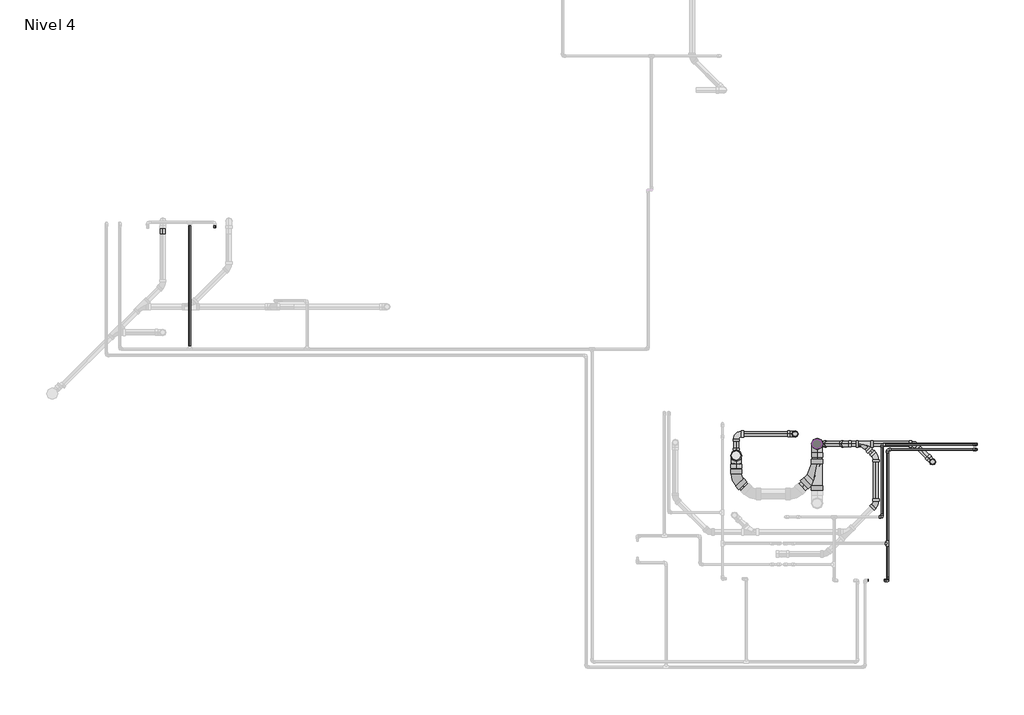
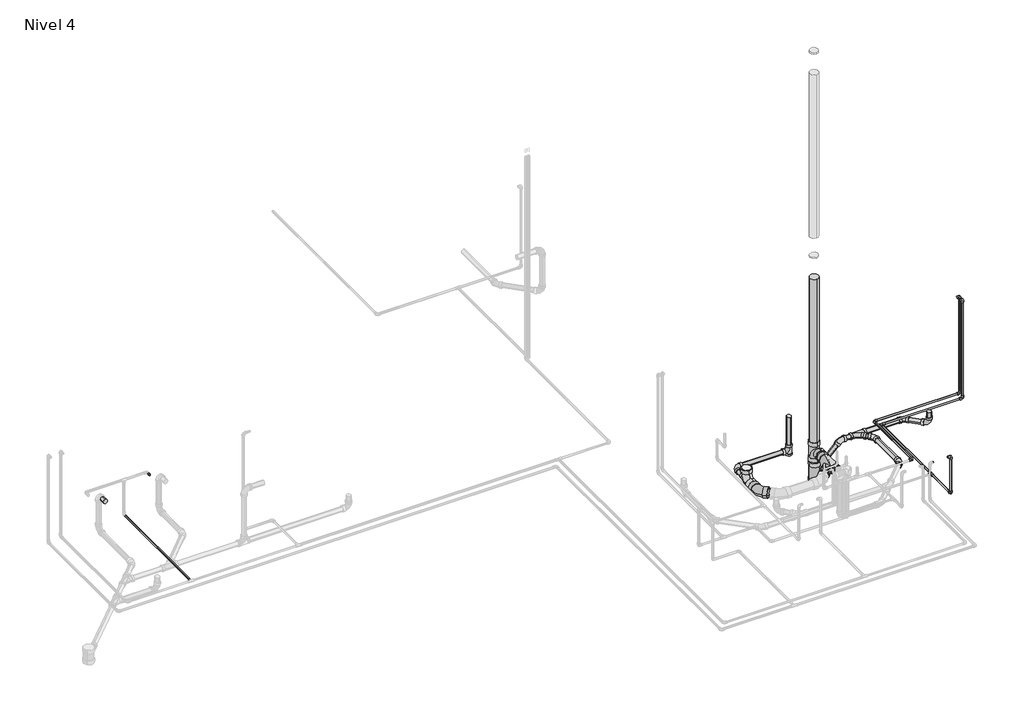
# One storey, part 4 of 9: 32 pipe segments, 23 pipe fittings.
"""IFC4 building model written with IfcOpenShell, lengths in millimetres."""

from ifc_helpers import new_model, si_unit, point, frame, frame_2d, origin, place, context, project, spatial, circle_curve, trimmed, segment, composite_curve, outline, extrude, transform, mapped, element, save
from components import pipe_fitting_ab418b84, pipe_fitting_0163322b, pipe_fitting_2a8dfbef, pipe_fitting_44a425ca, pipe_fitting_6ef1482d, pipe_fitting_ef5974f2, pipe_fitting_528008cb, m_codo_pvc_serie_40_9ad74631, m_codo_pvc_serie_40_dwv1_5c0ec739, m_codo_pvc_serie_40_dwv1_9a7ca077, m_codo_pvc_serie_40_dwv1_6f1a2495

model = new_model("IFC4")

# Units and contexts
model_context = context("Model", 3, world=origin())
ifc_project = project(units=[si_unit("LENGTHUNIT", "METRE", prefix="MILLI")], contexts=[model_context])

# Site, building, storey
site = spatial("IfcSite", under=ifc_project)
building = spatial("IfcBuilding", under=site)
storey = spatial("IfcBuildingStorey", under=building, Name="Nivel 4", Elevation=8100.0)

# Pipe fittings
placement = place(None, origin())
pipe_fitting_shape = pipe_fitting_ab418b84(model_context)
element("IfcPipeFitting", 1, ObjectType="M_Te - PVC - Serie 40 : Estándar", at=placement, inside=storey, context=model_context, shape_type="MappedRepresentation", body=[
    mapped(pipe_fitting_shape, transform((8223.2736664, 5443.3784167, 8020.0), x_axis=(0.0, -1.0, 0.0), y_axis=(1.0, 0.0, 0.0), z_axis=(0.0, 0.0, 1.0))),
])
pipe_fitting_2_shape = pipe_fitting_0163322b(model_context)
element("IfcPipeFitting", 2, ObjectType="M_Sanitario con te de reducción - PVC - Serie 40 - DWV : Estándar", at=placement, inside=storey, context=model_context, shape_type="MappedRepresentation", body=[
    mapped(pipe_fitting_2_shape, transform((7950.1491284, 6556.6039726, 7950.0), x_axis=(1.0, 0.0, 0.0), y_axis=(0.0, 1.0, 0.0), z_axis=(0.0, 0.0, 1.0))),
])
pipe_fitting_3_shape = pipe_fitting_2a8dfbef(model_context)
element("IfcPipeFitting", 3, ObjectType="M_Sanitario con te de reducción - PVC - Serie 40 - DWV : Estándar", at=placement, inside=storey, context=model_context, shape_type="MappedRepresentation", body=[
    mapped(pipe_fitting_3_shape, transform((7432.3114332, 6556.6039726, 7950.0), x_axis=(0.0, 0.0, 1.0), y_axis=(0.0, 1.0, 0.0), z_axis=(-1.0, 0.0, 0.0))),
])
pipe_fitting_4_shape = pipe_fitting_44a425ca(model_context)
element("IfcPipeFitting", 4, ObjectType="M_Sanitario con te de reducción - PVC - Serie 40 - DWV : Estándar", at=placement, inside=storey, context=model_context, shape_type="MappedRepresentation", body=[
    mapped(pipe_fitting_4_shape, transform((6526.9673956, 6425.7039726, 7950.0), x_axis=(0.0, 1.0, 0.0), y_axis=(0.0, 0.0, -1.0), z_axis=(-1.0, 0.0, 0.0))),
])
pipe_fitting_5_shape = pipe_fitting_6ef1482d(model_context)
element("IfcPipeFitting", 5, ObjectType="M_Sanitario con te de reducción - PVC - Serie 40 - DWV : Estándar", at=placement, inside=storey, context=model_context, shape_type="MappedRepresentation", body=[
    mapped(pipe_fitting_5_shape, transform((7186.9673956, 6667.6335141, 7950.0), x_axis=(0.0, 0.0, -1.0), y_axis=(1.0, 0.0, 0.0), z_axis=(0.0, -1.0, 0.0))),
])
pipe_fitting_6_shape = pipe_fitting_ef5974f2(model_context)
element("IfcPipeFitting", 6, ObjectType="M_Sanitario con te de reducción - PVC - Serie 40 - DWV : Estándar", at=placement, inside=storey, context=model_context, shape_type="MappedRepresentation", body=[
    mapped(pipe_fitting_6_shape, transform((7432.3114332, 6556.6039726, 7630.373341), x_axis=(0.0, 0.0, 1.0), y_axis=(-1.0, 0.0, 0.0), z_axis=(0.0, -1.0, 0.0))),
])
pipe_fitting_7_shape = pipe_fitting_528008cb(model_context)
element("IfcPipeFitting", 7, ObjectType="M_Sanitario con te de reducción - PVC - Serie 40 - DWV : Estándar", at=placement, inside=storey, context=model_context, shape_type="MappedRepresentation", body=[
    mapped(pipe_fitting_7_shape, transform((7432.3176766, 6240.3688287, 7950.0), x_axis=(0.0, -1.0, 0.0), y_axis=(1.0, 0.0, 0.0), z_axis=(0.0, 0.0, 1.0))),
])
m_codo_pvc_serie_40_shape = m_codo_pvc_serie_40_9ad74631(model_context)
element("IfcPipeFitting", 8, ObjectType="M_Codo - PVC - Serie 40 : Estándar", at=placement, inside=storey, context=model_context, shape_type="MappedRepresentation", body=[
    mapped(m_codo_pvc_serie_40_shape, transform((8160.7224481, 6550.9011374, 8050.0), x_axis=(-1.0, 0.0, 0.0), y_axis=(0.0, -1.0, 0.0), z_axis=(0.0, 0.0, 1.0))),
])
element("IfcPipeFitting", 9, ObjectType="M_Codo - PVC - Serie 40 : Estándar", at=placement, inside=storey, context=model_context, shape_type="MappedRepresentation", body=[
    mapped(m_codo_pvc_serie_40_shape, transform((9213.5474126, 6550.9011374, 8050.0), x_axis=(1.0, 0.0, 0.0), y_axis=(0.0, 0.0, 1.0), z_axis=(0.0, -1.0, 0.0))),
])
element("IfcPipeFitting", 10, ObjectType="M_Codo - PVC - Serie 40 : Estándar", at=placement, inside=storey, context=model_context, shape_type="MappedRepresentation", body=[
    mapped(m_codo_pvc_serie_40_shape, transform((9213.5474126, 6550.9011374, 9300.0), x_axis=(0.0, 0.0, 1.0), y_axis=(-1.0, 0.0, 0.0), z_axis=(0.0, -1.0, 0.0))),
])
element("IfcPipeFitting", 11, ObjectType="M_Codo - PVC - Serie 40 : Estándar", at=placement, inside=storey, context=model_context, shape_type="MappedRepresentation", body=[
    mapped(m_codo_pvc_serie_40_shape, transform((8223.2736664, 5028.5261191, 8500.0), x_axis=(1.0, 0.0, 0.0), y_axis=(0.0, 0.0, -1.0), z_axis=(0.0, 1.0, 0.0))),
])
element("IfcPipeFitting", 12, ObjectType="M_Codo - PVC - Serie 40 : Estándar", at=placement, inside=storey, context=model_context, shape_type="MappedRepresentation", body=[
    mapped(m_codo_pvc_serie_40_shape, transform((8223.2736664, 5028.5261191, 8020.0), x_axis=(0.0, 0.0, -1.0), y_axis=(0.0, 1.0, 0.0), z_axis=(1.0, 0.0, 0.0))),
])
element("IfcPipeFitting", 13, ObjectType="M_Codo - PVC - Serie 40 : Estándar", at=placement, inside=storey, context=model_context, shape_type="MappedRepresentation", body=[
    mapped(m_codo_pvc_serie_40_shape, transform((8160.7224481, 5738.1215351, 8050.0), x_axis=(1.0, 0.0, 0.0), y_axis=(0.0, 1.0, 0.0), z_axis=(0.0, 0.0, 1.0))),
])
element("IfcPipeFitting", 14, ObjectType="M_Codo - PVC - Serie 40 : Estándar", at=placement, inside=storey, context=model_context, shape_type="MappedRepresentation", body=[
    mapped(m_codo_pvc_serie_40_shape, transform((8223.2736664, 6493.5261191, 8020.0), x_axis=(-1.0, 0.0, 0.0), y_axis=(0.0, -1.0, 0.0), z_axis=(0.0, 0.0, 1.0))),
])
element("IfcPipeFitting", 15, ObjectType="M_Codo - PVC - Serie 40 : Estándar", at=placement, inside=storey, context=model_context, shape_type="MappedRepresentation", body=[
    mapped(m_codo_pvc_serie_40_shape, transform((9213.2736664, 6493.5261191, 8020.0), x_axis=(1.0, 0.0, 0.0), y_axis=(0.0, 0.0, 1.0), z_axis=(0.0, -1.0, 0.0))),
])
element("IfcPipeFitting", 16, ObjectType="M_Codo - PVC - Serie 40 : Estándar", at=placement, inside=storey, context=model_context, shape_type="MappedRepresentation", body=[
    mapped(m_codo_pvc_serie_40_shape, transform((9213.2736664, 6493.5261191, 9300.0), x_axis=(0.0, 0.0, 1.0), y_axis=(-1.0, 0.0, 0.0), z_axis=(0.0, -1.0, 0.0))),
])
m_codo_pvc_serie_40_dwv1_shape = m_codo_pvc_serie_40_dwv1_5c0ec739(model_context)
element("IfcPipeFitting", 17, ObjectType="M_Codo - PVC - Serie 40 - DWV1 : Estándar 2", at=placement, inside=storey, context=model_context, shape_type="MappedRepresentation", body=[
    mapped(m_codo_pvc_serie_40_dwv1_shape, transform((8726.4610283, 6356.2295424, 7950.0041623), x_axis=(0.0, 0.0, -1.0), y_axis=(-0.7071067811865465, 0.7071067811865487, 0.0), z_axis=(0.7071067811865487, 0.7071067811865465, 0.0))),
])
element("IfcPipeFitting", 18, ObjectType="M_Codo - PVC - Serie 40 - DWV1 : Estándar 2", at=placement, inside=storey, context=model_context, shape_type="MappedRepresentation", body=[
    mapped(m_codo_pvc_serie_40_dwv1_shape, transform((6526.9673956, 6667.6335141, 7950.0), x_axis=(-1.0, 0.0, 0.0), y_axis=(0.0, -1.0, 0.0), z_axis=(0.0, 0.0, 1.0))),
])
m_codo_pvc_serie_40_dwv1_2_shape = m_codo_pvc_serie_40_dwv1_9a7ca077(model_context)
element("IfcPipeFitting", 19, ObjectType="M_Codo - PVC - Serie 40 - DWV1 : Estándar 2", at=placement, inside=storey, context=model_context, shape_type="MappedRepresentation", body=[
    mapped(m_codo_pvc_serie_40_dwv1_2_shape, transform((6526.9673956, 6165.7039726, 7950.0), x_axis=(0.0, -1.0, 0.0), y_axis=(1.0, 0.0, 0.0), z_axis=(0.0, 0.0, 1.0))),
])
m_codo_pvc_serie_40_dwv1_3_shape = m_codo_pvc_serie_40_dwv1_6f1a2495(model_context)
element("IfcPipeFitting", 20, ObjectType="M_Codo - PVC - Serie 40 - DWV1 : Estándar 2", at=placement, inside=storey, context=model_context, shape_type="MappedRepresentation", body=[
    mapped(m_codo_pvc_serie_40_dwv1_3_shape, transform((8090.9591157, 5880.4374664, 7950.0), x_axis=(0.7071067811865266, 0.7071067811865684, 0.0), y_axis=(-0.7071067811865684, 0.7071067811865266, 0.0), z_axis=(0.0, 0.0, 1.0))),
])
element("IfcPipeFitting", 21, ObjectType="M_Codo - PVC - Serie 40 - DWV1 : Estándar 2", at=placement, inside=storey, context=model_context, shape_type="MappedRepresentation", body=[
    mapped(m_codo_pvc_serie_40_dwv1_3_shape, transform((8526.0865981, 6556.6039726, 7950.0), x_axis=(-0.7071067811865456, 0.7071067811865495, 0.0), y_axis=(-0.7071067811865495, -0.7071067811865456, 0.0), z_axis=(0.0, 0.0, 1.0))),
])
element("IfcPipeFitting", 22, ObjectType="M_Codo - PVC - Serie 40 - DWV1 : Estándar 2", at=placement, inside=storey, context=model_context, shape_type="MappedRepresentation", body=[
    mapped(m_codo_pvc_serie_40_dwv1_3_shape, transform((8090.9591157, 6415.7939854, 7950.0), x_axis=(0.0, 1.0, 0.0), y_axis=(-1.0, 0.0, 0.0), z_axis=(0.0, 0.0, 1.0))),
])
element("IfcPipeFitting", 23, ObjectType="M_Codo - PVC - Serie 40 - DWV1 : Estándar 2", at=placement, inside=storey, context=model_context, shape_type="MappedRepresentation", body=[
    mapped(m_codo_pvc_serie_40_dwv1_3_shape, transform((7751.9380923, 6556.6039726, 7950.0), x_axis=(-1.0, 0.0, 0.0), y_axis=(0.0, 0.0, -1.0), z_axis=(0.0, -1.0, 0.0))),
])

# Pipe segments
element("IfcPipeSegment", 24, ObjectType="Tuberia PVC Agua Fria", at=placement, inside=storey, context=model_context, shape_type="SweptSolid", body=[
    extrude(outline(composite_curve([segment(trimmed(circle_curve(frame_2d((8050.0, 411.6630441)), 10.31875), [point((8050.0, 421.9817941))], [point((8060.31875, 411.6630441))], False, "CARTESIAN"), True, "CONTINUOUS"), segment(trimmed(circle_curve(frame_2d((8050.0, 411.6630441)), 10.31875), [point((8060.31875, 411.6630441))], [point((8050.0, 401.3442941))], False, "CARTESIAN"), True, "CONTINUOUS"), segment(trimmed(circle_curve(frame_2d((8050.0, 411.6630441)), 10.31875), [point((8050.0, 401.3442941))], [point((8039.68125, 411.6630441))], False, "CARTESIAN"), True, "CONTINUOUS"), segment(trimmed(circle_curve(frame_2d((8050.0, 411.6630441)), 10.31875), [point((8039.68125, 411.6630441))], [point((8050.0, 421.9817941))], False, "CARTESIAN"), True, "CONTINUOUS")], self_intersect=False)), frame((0.0, 7647.4782956, 0.0), z_axis=(0.0, 1.0, 0.0), x_axis=(0.0, 0.0, 1.0)), (0.0, 0.0, 1.0), 1356.1388437),
])
element("IfcPipeSegment", 25, ObjectType="Tuberia PVC Agua Fria", at=placement, inside=storey, context=model_context, shape_type="SweptSolid", body=[
    extrude(outline(composite_curve([segment(trimmed(circle_curve(frame_2d((8500.0, 691.6630441)), 10.31875), [point((8500.0, 681.3442941))], [point((8489.68125, 691.6630441))], False, "CARTESIAN"), True, "CONTINUOUS"), segment(trimmed(circle_curve(frame_2d((8500.0, 691.6630441)), 10.31875), [point((8489.68125, 691.6630441))], [point((8500.0, 701.9817941))], False, "CARTESIAN"), True, "CONTINUOUS"), segment(trimmed(circle_curve(frame_2d((8500.0, 691.6630441)), 10.31875), [point((8500.0, 701.9817941))], [point((8510.31875, 691.6630441))], False, "CARTESIAN"), True, "CONTINUOUS"), segment(trimmed(circle_curve(frame_2d((8500.0, 691.6630441)), 10.31875), [point((8510.31875, 691.6630441))], [point((8500.0, 681.3442941))], False, "CARTESIAN"), True, "CONTINUOUS")], self_intersect=False)), frame((0.0, 8977.0181394, 0.0), z_axis=(0.0, 1.0, 0.0), x_axis=(0.0, 0.0, 1.0)), (0.0, 0.0, 1.0), 26.599),
])
element("IfcPipeSegment", 26, ObjectType="Tuberia PVC Agua Fria", at=placement, inside=storey, context=model_context, shape_type="SweptSolid", body=[
    extrude(outline(composite_curve([segment(trimmed(circle_curve(frame_2d((8050.0, 8160.7224481)), 10.31875), [point((8050.0, 8171.0411981))], [point((8060.31875, 8160.7224481))], False, "CARTESIAN"), True, "CONTINUOUS"), segment(trimmed(circle_curve(frame_2d((8050.0, 8160.7224481)), 10.31875), [point((8060.31875, 8160.7224481))], [point((8050.0, 8150.4036981))], False, "CARTESIAN"), True, "CONTINUOUS"), segment(trimmed(circle_curve(frame_2d((8050.0, 8160.7224481)), 10.31875), [point((8050.0, 8150.4036981))], [point((8039.68125, 8160.7224481))], False, "CARTESIAN"), True, "CONTINUOUS"), segment(trimmed(circle_curve(frame_2d((8050.0, 8160.7224481)), 10.31875), [point((8039.68125, 8160.7224481))], [point((8050.0, 8171.0411981))], False, "CARTESIAN"), True, "CONTINUOUS")], self_intersect=False)), frame((0.0, 5771.5225351, 0.0), z_axis=(0.0, 1.0, 0.0), x_axis=(0.0, 0.0, 1.0)), (0.0, 0.0, 1.0), 745.9776022),
])
element("IfcPipeSegment", 27, ObjectType="Tuberia PVC Agua Fria", at=placement, inside=storey, context=model_context, shape_type="SweptSolid", body=[
    extrude(outline(composite_curve([segment(trimmed(circle_curve(frame_2d((6550.9011374, 8050.0)), 10.31875), [point((6540.5823874, 8050.0))], [point((6550.9011374, 8060.31875))], False, "CARTESIAN"), True, "CONTINUOUS"), segment(trimmed(circle_curve(frame_2d((6550.9011374, 8050.0)), 10.31875), [point((6550.9011374, 8060.31875))], [point((6561.2198874, 8050.0))], False, "CARTESIAN"), True, "CONTINUOUS"), segment(trimmed(circle_curve(frame_2d((6550.9011374, 8050.0)), 10.31875), [point((6561.2198874, 8050.0))], [point((6550.9011374, 8039.68125))], False, "CARTESIAN"), True, "CONTINUOUS"), segment(trimmed(circle_curve(frame_2d((6550.9011374, 8050.0)), 10.31875), [point((6550.9011374, 8039.68125))], [point((6540.5823874, 8050.0))], False, "CARTESIAN"), True, "CONTINUOUS")], self_intersect=False)), frame((8194.1234481, 0.0, 0.0), z_axis=(1.0, 0.0, 0.0), x_axis=(0.0, 1.0, 0.0)), (0.0, 0.0, 1.0), 986.0229645),
])
element("IfcPipeSegment", 28, ObjectType="Tuberia PVC Agua Fria", at=placement, inside=storey, context=model_context, shape_type="SweptSolid", body=[
    extrude(outline(composite_curve([segment(trimmed(circle_curve(frame_2d((9213.5474126, 6550.9011374)), 10.31875), [point((9203.2286626, 6550.9011374))], [point((9213.5474126, 6561.2198874))], False, "CARTESIAN"), True, "CONTINUOUS"), segment(trimmed(circle_curve(frame_2d((9213.5474126, 6550.9011374)), 10.31875), [point((9213.5474126, 6561.2198874))], [point((9223.8661626, 6550.9011374))], False, "CARTESIAN"), True, "CONTINUOUS"), segment(trimmed(circle_curve(frame_2d((9213.5474126, 6550.9011374)), 10.31875), [point((9223.8661626, 6550.9011374))], [point((9213.5474126, 6540.5823874))], False, "CARTESIAN"), True, "CONTINUOUS"), segment(trimmed(circle_curve(frame_2d((9213.5474126, 6550.9011374)), 10.31875), [point((9213.5474126, 6540.5823874))], [point((9203.2286626, 6550.9011374))], False, "CARTESIAN"), True, "CONTINUOUS")], self_intersect=False)), frame((0.0, 0.0, 8083.401), z_axis=(0.0, 0.0, 1.0), x_axis=(1.0, 0.0, 0.0)), (0.0, 0.0, 1.0), 1183.198),
])
element("IfcPipeSegment", 29, ObjectType="Tuberia PVC VENTILACION", at=placement, inside=storey, context=model_context, shape_type="SweptSolid", body=[
    extrude(outline(composite_curve([segment(trimmed(circle_curve(frame_2d((7950.0, 6526.9673956)), 26.9875), [point((7950.0, 6553.9548956))], [point((7976.9875, 6526.9673956))], False, "CARTESIAN"), True, "CONTINUOUS"), segment(trimmed(circle_curve(frame_2d((7950.0, 6526.9673956)), 26.9875), [point((7976.9875, 6526.9673956))], [point((7950.0, 6499.9798956))], False, "CARTESIAN"), True, "CONTINUOUS"), segment(trimmed(circle_curve(frame_2d((7950.0, 6526.9673956)), 26.9875), [point((7950.0, 6499.9798956))], [point((7923.0125, 6526.9673956))], False, "CARTESIAN"), True, "CONTINUOUS"), segment(trimmed(circle_curve(frame_2d((7950.0, 6526.9673956)), 26.9875), [point((7923.0125, 6526.9673956))], [point((7950.0, 6553.9548956))], False, "CARTESIAN"), True, "CONTINUOUS")], self_intersect=False)), frame((0.0, 6507.6335141, 0.0), z_axis=(0.0, 1.0, 0.0), x_axis=(0.0, 0.0, 1.0)), (0.0, 0.0, 1.0), 77.4579375),
])
element("IfcPipeSegment", 30, ObjectType="Tuberia PVC VENTILACION", at=placement, inside=storey, context=model_context, shape_type="SweptSolid", body=[
    extrude(outline(composite_curve([segment(trimmed(circle_curve(frame_2d((6667.6335141, 7950.0)), 26.9875), [point((6640.6460141, 7950.0))], [point((6667.6335141, 7976.9875))], False, "CARTESIAN"), True, "CONTINUOUS"), segment(trimmed(circle_curve(frame_2d((6667.6335141, 7950.0)), 26.9875), [point((6667.6335141, 7976.9875))], [point((6694.6210141, 7950.0))], False, "CARTESIAN"), True, "CONTINUOUS"), segment(trimmed(circle_curve(frame_2d((6667.6335141, 7950.0)), 26.9875), [point((6694.6210141, 7950.0))], [point((6667.6335141, 7923.0125))], False, "CARTESIAN"), True, "CONTINUOUS"), segment(trimmed(circle_curve(frame_2d((6667.6335141, 7950.0)), 26.9875), [point((6667.6335141, 7923.0125))], [point((6640.6460141, 7950.0))], False, "CARTESIAN"), True, "CONTINUOUS")], self_intersect=False)), frame((6609.5094581, 0.0, 0.0), z_axis=(1.0, 0.0, 0.0), x_axis=(0.0, 1.0, 0.0)), (0.0, 0.0, 1.0), 495.6659688),
])
element("IfcPipeSegment", 31, ObjectType="Tuberia PVC VENTILACION", at=placement, inside=storey, context=model_context, shape_type="SweptSolid", body=[
    extrude(outline(composite_curve([segment(trimmed(circle_curve(frame_2d((7186.9673956, 6667.6335141)), 26.9875), [point((7159.9798956, 6667.6335141))], [point((7186.9673956, 6694.6210141))], False, "CARTESIAN"), True, "CONTINUOUS"), segment(trimmed(circle_curve(frame_2d((7186.9673956, 6667.6335141)), 26.9875), [point((7186.9673956, 6694.6210141))], [point((7213.9548956, 6667.6335141))], False, "CARTESIAN"), True, "CONTINUOUS"), segment(trimmed(circle_curve(frame_2d((7186.9673956, 6667.6335141)), 26.9875), [point((7213.9548956, 6667.6335141))], [point((7186.9673956, 6640.6460141))], False, "CARTESIAN"), True, "CONTINUOUS"), segment(trimmed(circle_curve(frame_2d((7186.9673956, 6667.6335141)), 26.9875), [point((7186.9673956, 6640.6460141))], [point((7159.9798956, 6667.6335141))], False, "CARTESIAN"), True, "CONTINUOUS")], self_intersect=False)), frame((0.0, 0.0, 8029.9344667), z_axis=(0.0, 0.0, 1.0), x_axis=(1.0, 0.0, 0.0)), (0.0, 0.0, 1.0), 360.0655333),
])
element("IfcPipeSegment", 32, ObjectType="Tuberia PVC Agua Caliente", at=placement, inside=storey, context=model_context, shape_type="SweptSolid", body=[
    extrude(outline(composite_curve([segment(trimmed(circle_curve(frame_2d((5028.5261191, 8500.0)), 10.31875), [point((5018.2073691, 8500.0))], [point((5028.5261191, 8510.31875))], False, "CARTESIAN"), True, "CONTINUOUS"), segment(trimmed(circle_curve(frame_2d((5028.5261191, 8500.0)), 10.31875), [point((5028.5261191, 8510.31875))], [point((5038.8448691, 8500.0))], False, "CARTESIAN"), True, "CONTINUOUS"), segment(trimmed(circle_curve(frame_2d((5028.5261191, 8500.0)), 10.31875), [point((5038.8448691, 8500.0))], [point((5028.5261191, 8489.68125))], False, "CARTESIAN"), True, "CONTINUOUS"), segment(trimmed(circle_curve(frame_2d((5028.5261191, 8500.0)), 10.31875), [point((5028.5261191, 8489.68125))], [point((5018.2073691, 8500.0))], False, "CARTESIAN"), True, "CONTINUOUS")], self_intersect=False)), frame((8184.7736664, 0.0, 0.0), z_axis=(1.0, 0.0, 0.0), x_axis=(0.0, 1.0, 0.0)), (0.0, 0.0, 1.0), 5.099),
])
element("IfcPipeSegment", 33, ObjectType="Tuberia PVC Agua Caliente", at=placement, inside=storey, context=model_context, shape_type="SweptSolid", body=[
    extrude(outline(composite_curve([segment(trimmed(circle_curve(frame_2d((8223.2736664, 5028.5261191)), 10.31875), [point((8233.5924164, 5028.5261191))], [point((8223.2736664, 5018.2073691))], False, "CARTESIAN"), True, "CONTINUOUS"), segment(trimmed(circle_curve(frame_2d((8223.2736664, 5028.5261191)), 10.31875), [point((8223.2736664, 5018.2073691))], [point((8212.9549164, 5028.5261191))], False, "CARTESIAN"), True, "CONTINUOUS"), segment(trimmed(circle_curve(frame_2d((8223.2736664, 5028.5261191)), 10.31875), [point((8212.9549164, 5028.5261191))], [point((8223.2736664, 5038.8448691))], False, "CARTESIAN"), True, "CONTINUOUS"), segment(trimmed(circle_curve(frame_2d((8223.2736664, 5028.5261191)), 10.31875), [point((8223.2736664, 5038.8448691))], [point((8233.5924164, 5028.5261191))], False, "CARTESIAN"), True, "CONTINUOUS")], self_intersect=False)), frame((0.0, 0.0, 8053.401), z_axis=(0.0, 0.0, 1.0), x_axis=(1.0, 0.0, 0.0)), (0.0, 0.0, 1.0), 413.198),
])
element("IfcPipeSegment", 34, ObjectType="Tuberia PVC Agua Caliente", at=placement, inside=storey, context=model_context, shape_type="SweptSolid", body=[
    extrude(outline(composite_curve([segment(trimmed(circle_curve(frame_2d((6493.5261191, 8020.0)), 10.31875), [point((6483.2073691, 8020.0))], [point((6493.5261191, 8030.31875))], False, "CARTESIAN"), True, "CONTINUOUS"), segment(trimmed(circle_curve(frame_2d((6493.5261191, 8020.0)), 10.31875), [point((6493.5261191, 8030.31875))], [point((6503.8448691, 8020.0))], False, "CARTESIAN"), True, "CONTINUOUS"), segment(trimmed(circle_curve(frame_2d((6493.5261191, 8020.0)), 10.31875), [point((6503.8448691, 8020.0))], [point((6493.5261191, 8009.68125))], False, "CARTESIAN"), True, "CONTINUOUS"), segment(trimmed(circle_curve(frame_2d((6493.5261191, 8020.0)), 10.31875), [point((6493.5261191, 8009.68125))], [point((6483.2073691, 8020.0))], False, "CARTESIAN"), True, "CONTINUOUS")], self_intersect=False)), frame((8256.6746664, 0.0, 0.0), z_axis=(1.0, 0.0, 0.0), x_axis=(0.0, 1.0, 0.0)), (0.0, 0.0, 1.0), 923.198),
])
element("IfcPipeSegment", 35, ObjectType="Tuberia PVC Agua Caliente", at=placement, inside=storey, context=model_context, shape_type="SweptSolid", body=[
    extrude(outline(composite_curve([segment(trimmed(circle_curve(frame_2d((9213.2736664, 6493.5261191)), 10.31875), [point((9202.9549164, 6493.5261191))], [point((9213.2736664, 6503.8448691))], False, "CARTESIAN"), True, "CONTINUOUS"), segment(trimmed(circle_curve(frame_2d((9213.2736664, 6493.5261191)), 10.31875), [point((9213.2736664, 6503.8448691))], [point((9223.5924164, 6493.5261191))], False, "CARTESIAN"), True, "CONTINUOUS"), segment(trimmed(circle_curve(frame_2d((9213.2736664, 6493.5261191)), 10.31875), [point((9223.5924164, 6493.5261191))], [point((9213.2736664, 6483.2073691))], False, "CARTESIAN"), True, "CONTINUOUS"), segment(trimmed(circle_curve(frame_2d((9213.2736664, 6493.5261191)), 10.31875), [point((9213.2736664, 6483.2073691))], [point((9202.9549164, 6493.5261191))], False, "CARTESIAN"), True, "CONTINUOUS")], self_intersect=False)), frame((0.0, 0.0, 8053.401), z_axis=(0.0, 0.0, 1.0), x_axis=(1.0, 0.0, 0.0)), (0.0, 0.0, 1.0), 1213.198),
])
element("IfcPipeSegment", 36, ObjectType="Tuberia PVC Agua Caliente", at=placement, inside=storey, context=model_context, shape_type="SweptSolid", body=[
    extrude(outline(composite_curve([segment(trimmed(circle_curve(frame_2d((8020.0, 8223.2736664)), 10.31875), [point((8020.0, 8233.5924164))], [point((8030.31875, 8223.2736664))], False, "CARTESIAN"), True, "CONTINUOUS"), segment(trimmed(circle_curve(frame_2d((8020.0, 8223.2736664)), 10.31875), [point((8030.31875, 8223.2736664))], [point((8020.0, 8212.9549164))], False, "CARTESIAN"), True, "CONTINUOUS"), segment(trimmed(circle_curve(frame_2d((8020.0, 8223.2736664)), 10.31875), [point((8020.0, 8212.9549164))], [point((8009.68125, 8223.2736664))], False, "CARTESIAN"), True, "CONTINUOUS"), segment(trimmed(circle_curve(frame_2d((8020.0, 8223.2736664)), 10.31875), [point((8009.68125, 8223.2736664))], [point((8020.0, 8233.5924164))], False, "CARTESIAN"), True, "CONTINUOUS")], self_intersect=False)), frame((0.0, 5473.8385729, 0.0), z_axis=(0.0, 1.0, 0.0), x_axis=(0.0, 0.0, 1.0)), (0.0, 0.0, 1.0), 986.2865461),
])
element("IfcPipeSegment", 37, ObjectType="Tuberia PVC Agua Caliente", at=placement, inside=storey, context=model_context, shape_type="SweptSolid", body=[
    extrude(outline(composite_curve([segment(trimmed(circle_curve(frame_2d((8020.0, 8223.2736664)), 10.31875), [point((8020.0, 8233.5924164))], [point((8030.31875, 8223.2736664))], False, "CARTESIAN"), True, "CONTINUOUS"), segment(trimmed(circle_curve(frame_2d((8020.0, 8223.2736664)), 10.31875), [point((8030.31875, 8223.2736664))], [point((8020.0, 8212.9549164))], False, "CARTESIAN"), True, "CONTINUOUS"), segment(trimmed(circle_curve(frame_2d((8020.0, 8223.2736664)), 10.31875), [point((8020.0, 8212.9549164))], [point((8009.68125, 8223.2736664))], False, "CARTESIAN"), True, "CONTINUOUS"), segment(trimmed(circle_curve(frame_2d((8020.0, 8223.2736664)), 10.31875), [point((8009.68125, 8223.2736664))], [point((8020.0, 8233.5924164))], False, "CARTESIAN"), True, "CONTINUOUS")], self_intersect=False)), frame((0.0, 5061.9271191, 0.0), z_axis=(0.0, 1.0, 0.0), x_axis=(0.0, 0.0, 1.0)), (0.0, 0.0, 1.0), 350.9911414),
])
element("IfcPipeSegment", 38, ObjectType="Tuberia PVC Agua Caliente", at=placement, inside=storey, context=model_context, shape_type="SweptSolid", body=[
    extrude(outline(composite_curve([segment(trimmed(circle_curve(frame_2d((5028.5261191, 8500.0)), 10.31875), [point((5018.2073691, 8500.0))], [point((5028.5261191, 8510.31875))], False, "CARTESIAN"), True, "CONTINUOUS"), segment(trimmed(circle_curve(frame_2d((5028.5261191, 8500.0)), 10.31875), [point((5028.5261191, 8510.31875))], [point((5038.8448691, 8500.0))], False, "CARTESIAN"), True, "CONTINUOUS"), segment(trimmed(circle_curve(frame_2d((5028.5261191, 8500.0)), 10.31875), [point((5038.8448691, 8500.0))], [point((5028.5261191, 8489.68125))], False, "CARTESIAN"), True, "CONTINUOUS"), segment(trimmed(circle_curve(frame_2d((5028.5261191, 8500.0)), 10.31875), [point((5028.5261191, 8489.68125))], [point((5018.2073691, 8500.0))], False, "CARTESIAN"), True, "CONTINUOUS")], self_intersect=False)), frame((8001.6746664, 0.0, 0.0), z_axis=(1.0, 0.0, 0.0), x_axis=(0.0, 1.0, 0.0)), (0.0, 0.0, 1.0), 5.099),
])
element("IfcPipeSegment", 39, ObjectType="Tuberia PVC Sanitario", at=placement, inside=storey, context=model_context, shape_type="SweptSolid", body=[
    extrude(outline(composite_curve([segment(trimmed(circle_curve(frame_2d((8400.0, 109.5958692)), 26.9875), [point((8400.0, 136.5833692))], [point((8426.9875, 109.5958692))], False, "CARTESIAN"), True, "CONTINUOUS"), segment(trimmed(circle_curve(frame_2d((8400.0, 109.5958692)), 26.9875), [point((8426.9875, 109.5958692))], [point((8400.0, 82.6083692))], False, "CARTESIAN"), True, "CONTINUOUS"), segment(trimmed(circle_curve(frame_2d((8400.0, 109.5958692)), 26.9875), [point((8400.0, 82.6083692))], [point((8373.0125, 109.5958692))], False, "CARTESIAN"), True, "CONTINUOUS"), segment(trimmed(circle_curve(frame_2d((8400.0, 109.5958692)), 26.9875), [point((8373.0125, 109.5958692))], [point((8400.0, 136.5833692))], False, "CARTESIAN"), True, "CONTINUOUS")], self_intersect=False)), frame((0.0, 8907.7311146, 0.0), z_axis=(0.0, 1.0, 0.0), x_axis=(0.0, 0.0, 1.0)), (0.0, 0.0, 1.0), 62.4579375),
])
element("IfcPipeSegment", 40, ObjectType="Tuberia PVC Sanitario", at=placement, inside=storey, context=model_context, shape_type="SweptSolid", body=[
    extrude(outline(composite_curve([segment(trimmed(circle_curve(frame_2d((0.0, 52.3875)), 52.3875), [point((0.0, 104.7749999))], [point((52.3875, 52.3875))], False, "CARTESIAN"), True, "CONTINUOUS"), segment(trimmed(circle_curve(frame_2d((0.0, 52.3875)), 52.3875), [point((52.3875, 52.3875))], [point((0.0, 0.0))], False, "CARTESIAN"), True, "CONTINUOUS"), segment(trimmed(circle_curve(frame_2d((0.0, 52.3875)), 52.3875), [point((0.0, 0.0))], [point((-52.3875, 52.3875))], False, "CARTESIAN"), True, "CONTINUOUS"), segment(trimmed(circle_curve(frame_2d((0.0, 52.3875)), 52.3875), [point((-52.3875, 52.3875))], [point((0.0, 104.7749999))], False, "CARTESIAN"), True, "CONTINUOUS")], self_intersect=False)), frame((7379.9301782, 6384.2507292, 7950.0), z_axis=(-0.00024460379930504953, 0.9999999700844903, 0.0), x_axis=(0.0, 0.0, 1.0)), (0.0, 0.0, 1.0), 25.5244612),
])
element("IfcPipeSegment", 41, ObjectType="Tuberia PVC Sanitario", at=placement, inside=storey, context=model_context, shape_type="SweptSolid", body=[
    extrude(outline(composite_curve([segment(trimmed(circle_curve(frame_2d((0.0, -52.3875)), 52.3875), [point((-52.3875, -52.3875))], [point((0.0, 0.0))], False, "CARTESIAN"), True, "CONTINUOUS"), segment(trimmed(circle_curve(frame_2d((0.0, -52.3875)), 52.3875), [point((0.0, 0.0))], [point((52.3875, -52.3875))], False, "CARTESIAN"), True, "CONTINUOUS"), segment(trimmed(circle_curve(frame_2d((0.0, -52.3875)), 52.3875), [point((52.3875, -52.3875))], [point((0.0, -104.775))], False, "CARTESIAN"), True, "CONTINUOUS"), segment(trimmed(circle_curve(frame_2d((0.0, -52.3875)), 52.3875), [point((0.0, -104.775))], [point((-52.3875, -52.3875))], False, "CARTESIAN"), True, "CONTINUOUS")], self_intersect=False)), frame((7263.870903, 6071.9220551, 7897.6125), z_axis=(0.7071067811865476, 0.7071067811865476, 0.0), x_axis=(0.7071067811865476, -0.7071067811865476, 0.0)), (0.0, 0.0, 1.0), 37.2473985),
])
element("IfcPipeSegment", 42, ObjectType="Tuberia PVC Sanitario", at=placement, inside=storey, context=model_context, shape_type="SweptSolid", body=[
    extrude(outline(composite_curve([segment(trimmed(circle_curve(frame_2d((0.0, 52.3875)), 52.3875), [point((0.0, 104.775))], [point((52.3875, 52.3875))], False, "CARTESIAN"), True, "CONTINUOUS"), segment(trimmed(circle_curve(frame_2d((0.0, 52.3875)), 52.3875), [point((52.3875, 52.3875))], [point((0.0, 0.0))], False, "CARTESIAN"), True, "CONTINUOUS"), segment(trimmed(circle_curve(frame_2d((0.0, 52.3875)), 52.3875), [point((0.0, 0.0))], [point((-52.3875, 52.3875))], False, "CARTESIAN"), True, "CONTINUOUS"), segment(trimmed(circle_curve(frame_2d((0.0, 52.3875)), 52.3875), [point((-52.3875, 52.3875))], [point((0.0, 104.775))], False, "CARTESIAN"), True, "CONTINUOUS")], self_intersect=False)), frame((7379.9301766, 6033.0740351, 7950.0), z_axis=(-1.374577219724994e-12, 1.0, 0.0), x_axis=(0.0, 0.0, 1.0)), (0.0, 0.0, 1.0), 6.3224804),
])
element("IfcPipeSegment", 43, ObjectType="Tuberia PVC Sanitario", at=placement, inside=storey, context=model_context, shape_type="SweptSolid", body=[
    extrude(outline(composite_curve([segment(trimmed(circle_curve(frame_2d((7950.0, 6526.9673956)), 52.3875), [point((7950.0, 6474.5798956))], [point((7897.6125, 6526.9673956))], False, "CARTESIAN"), True, "CONTINUOUS"), segment(trimmed(circle_curve(frame_2d((7950.0, 6526.9673956)), 52.3875), [point((7897.6125, 6526.9673956))], [point((7950.0, 6579.3548956))], False, "CARTESIAN"), True, "CONTINUOUS"), segment(trimmed(circle_curve(frame_2d((7950.0, 6526.9673956)), 52.3875), [point((7950.0, 6579.3548956))], [point((8002.3875, 6526.9673956))], False, "CARTESIAN"), True, "CONTINUOUS"), segment(trimmed(circle_curve(frame_2d((7950.0, 6526.9673956)), 52.3875), [point((8002.3875, 6526.9673956))], [point((7950.0, 6474.5798956))], False, "CARTESIAN"), True, "CONTINUOUS")], self_intersect=False)), frame((0.0, 6272.8681601, 0.0), z_axis=(0.0, 1.0, 0.0), x_axis=(0.0, 0.0, 1.0)), (0.0, 0.0, 1.0), 8.9410978),
])
element("IfcPipeSegment", 44, ObjectType="Tuberia PVC Sanitario", at=placement, inside=storey, context=model_context, shape_type="SweptSolid", body=[
    extrude(outline(composite_curve([segment(trimmed(circle_curve(frame_2d((0.0, -26.9875)), 26.9875), [point((26.9875001, -26.9867))], [point((0.0008001, -53.975))], False, "CARTESIAN"), True, "CONTINUOUS"), segment(trimmed(circle_curve(frame_2d((0.0, -26.9875)), 26.9875), [point((0.0008001, -53.975))], [point((-26.9875, -26.9883001))], False, "CARTESIAN"), True, "CONTINUOUS"), segment(trimmed(circle_curve(frame_2d((0.0, -26.9875)), 26.9875), [point((-26.9875, -26.9883001))], [point((-0.0008, 0.0))], False, "CARTESIAN"), True, "CONTINUOUS"), segment(trimmed(circle_curve(frame_2d((0.0, -26.9875)), 26.9875), [point((-0.0008, 0.0))], [point((26.9875001, -26.9867))], False, "CARTESIAN"), True, "CONTINUOUS")], self_intersect=False)), frame((8568.8157793, 6513.8759229, 7976.9875), z_axis=(0.7071067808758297, -0.7071067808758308, 2.96452605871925e-05), x_axis=(0.7071067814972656, 0.7071067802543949, -2.9645260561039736e-05)), (0.0, 0.0, 1.0), 140.4019868),
])
element("IfcPipeSegment", 45, ObjectType="Tuberia PVC Sanitario", at=placement, inside=storey, context=model_context, shape_type="SweptSolid", body=[
    extrude(outline(composite_curve([segment(trimmed(circle_curve(frame_2d((8726.4610283, 6356.2295424)), 26.9875), [point((8699.4735283, 6356.2295424))], [point((8726.4610283, 6383.2170424))], False, "CARTESIAN"), True, "CONTINUOUS"), segment(trimmed(circle_curve(frame_2d((8726.4610283, 6356.2295424)), 26.9875), [point((8726.4610283, 6383.2170424))], [point((8753.4485283, 6356.2295424))], False, "CARTESIAN"), True, "CONTINUOUS"), segment(trimmed(circle_curve(frame_2d((8726.4610283, 6356.2295424)), 26.9875), [point((8753.4485283, 6356.2295424))], [point((8726.4610283, 6329.2420424))], False, "CARTESIAN"), True, "CONTINUOUS"), segment(trimmed(circle_curve(frame_2d((8726.4610283, 6356.2295424)), 26.9875), [point((8726.4610283, 6329.2420424))], [point((8699.4735283, 6356.2295424))], False, "CARTESIAN"), True, "CONTINUOUS")], self_intersect=False)), frame((0.0, 0.0, 8032.5462248), z_axis=(0.0, 0.0, 1.0), x_axis=(1.0, 0.0, 0.0)), (0.0, 0.0, 1.0), 67.4537752),
])
element("IfcPipeSegment", 46, ObjectType="Tuberia PVC Sanitario", at=placement, inside=storey, context=model_context, shape_type="SweptSolid", body=[
    extrude(outline(composite_curve([segment(trimmed(circle_curve(frame_2d((7950.0, 8090.9591157)), 26.9875), [point((7950.0, 8117.9466157))], [point((7976.9875, 8090.9591157))], False, "CARTESIAN"), True, "CONTINUOUS"), segment(trimmed(circle_curve(frame_2d((7950.0, 8090.9591157)), 26.9875), [point((7976.9875, 8090.9591157))], [point((7950.0, 8063.9716157))], False, "CARTESIAN"), True, "CONTINUOUS"), segment(trimmed(circle_curve(frame_2d((7950.0, 8090.9591157)), 26.9875), [point((7950.0, 8063.9716157))], [point((7923.0125, 8090.9591157))], False, "CARTESIAN"), True, "CONTINUOUS"), segment(trimmed(circle_curve(frame_2d((7950.0, 8090.9591157)), 26.9875), [point((7923.0125, 8090.9591157))], [point((7950.0, 8117.9466157))], False, "CARTESIAN"), True, "CONTINUOUS")], self_intersect=False)), frame((0.0, 5940.8656539, 0.0), z_axis=(0.0, 1.0, 0.0), x_axis=(0.0, 0.0, 1.0)), (0.0, 0.0, 1.0), 414.500144),
])
element("IfcPipeSegment", 47, ObjectType="Tuberia PVC Sanitario", at=placement, inside=storey, context=model_context, shape_type="SweptSolid", body=[
    extrude(outline(composite_curve([segment(trimmed(circle_curve(frame_2d((6556.6039726, 7950.0)), 26.9875), [point((6583.5914726, 7950.0))], [point((6556.6039726, 7923.0125))], False, "CARTESIAN"), True, "CONTINUOUS"), segment(trimmed(circle_curve(frame_2d((6556.6039726, 7950.0)), 26.9875), [point((6556.6039726, 7923.0125))], [point((6529.6164726, 7950.0))], False, "CARTESIAN"), True, "CONTINUOUS"), segment(trimmed(circle_curve(frame_2d((6556.6039726, 7950.0)), 26.9875), [point((6529.6164726, 7950.0))], [point((6556.6039726, 7976.9875))], False, "CARTESIAN"), True, "CONTINUOUS"), segment(trimmed(circle_curve(frame_2d((6556.6039726, 7950.0)), 26.9875), [point((6556.6039726, 7976.9875))], [point((6583.5914726, 7950.0))], False, "CARTESIAN"), True, "CONTINUOUS")], self_intersect=False)), frame((7812.3662798, 0.0, 0.0), z_axis=(1.0, 0.0, 0.0), x_axis=(0.0, 1.0, 0.0)), (0.0, 0.0, 1.0), 57.8483819),
])
element("IfcPipeSegment", 48, ObjectType="Tuberia PVC Sanitario", at=placement, inside=storey, context=model_context, shape_type="SweptSolid", body=[
    extrude(outline(composite_curve([segment(trimmed(circle_curve(frame_2d((0.0, -26.9875)), 26.9875), [point((-26.9875001, -26.9875))], [point((0.0, 0.0))], False, "CARTESIAN"), True, "CONTINUOUS"), segment(trimmed(circle_curve(frame_2d((0.0, -26.9875)), 26.9875), [point((0.0, 0.0))], [point((26.9875, -26.9875))], False, "CARTESIAN"), True, "CONTINUOUS"), segment(trimmed(circle_curve(frame_2d((0.0, -26.9875)), 26.9875), [point((26.9875, -26.9875))], [point((0.0, -53.975))], False, "CARTESIAN"), True, "CONTINUOUS"), segment(trimmed(circle_curve(frame_2d((0.0, -26.9875)), 26.9875), [point((0.0, -53.975))], [point((-26.9875001, -26.9875))], False, "CARTESIAN"), True, "CONTINUOUS")], self_intersect=False)), frame((8048.2299345, 6458.5231666, 7923.0125), z_axis=(-0.7071067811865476, 0.7071067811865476, 0.0), x_axis=(0.7071067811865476, 0.7071067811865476, 0.0)), (0.0, 0.0, 1.0), 29.8695994),
])
element("IfcPipeSegment", 49, ObjectType="Tuberia PVC Sanitario", at=placement, inside=storey, context=model_context, shape_type="SweptSolid", body=[
    extrude(outline(composite_curve([segment(trimmed(circle_curve(frame_2d((6556.6039726, 7950.0)), 26.9875), [point((6583.5914726, 7950.0))], [point((6556.6039726, 7923.0125))], False, "CARTESIAN"), True, "CONTINUOUS"), segment(trimmed(circle_curve(frame_2d((6556.6039726, 7950.0)), 26.9875), [point((6556.6039726, 7923.0125))], [point((6529.6164726, 7950.0))], False, "CARTESIAN"), True, "CONTINUOUS"), segment(trimmed(circle_curve(frame_2d((6556.6039726, 7950.0)), 26.9875), [point((6529.6164726, 7950.0))], [point((6556.6039726, 7976.9875))], False, "CARTESIAN"), True, "CONTINUOUS"), segment(trimmed(circle_curve(frame_2d((6556.6039726, 7950.0)), 26.9875), [point((6556.6039726, 7976.9875))], [point((6583.5914726, 7950.0))], False, "CARTESIAN"), True, "CONTINUOUS")], self_intersect=False)), frame((8058.9867351, 0.0, 0.0), z_axis=(1.0, 0.0, 0.0), x_axis=(0.0, 1.0, 0.0)), (0.0, 0.0, 1.0), 406.6716755),
])
element("IfcPipeSegment", 50, ObjectType="Tuberia PVC Sanitario", at=placement, inside=storey, context=model_context, shape_type="SweptSolid", body=[
    extrude(outline(composite_curve([segment(trimmed(circle_curve(frame_2d((0.0, -26.9875)), 26.9875), [point((0.0, 0.0))], [point((26.9874999, -26.9875))], False, "CARTESIAN"), True, "CONTINUOUS"), segment(trimmed(circle_curve(frame_2d((0.0, -26.9875)), 26.9875), [point((26.9874999, -26.9875))], [point((0.0, -53.975))], False, "CARTESIAN"), True, "CONTINUOUS"), segment(trimmed(circle_curve(frame_2d((0.0, -26.9875)), 26.9875), [point((0.0, -53.975))], [point((-26.9875001, -26.9875))], False, "CARTESIAN"), True, "CONTINUOUS"), segment(trimmed(circle_curve(frame_2d((0.0, -26.9875)), 26.9875), [point((-26.9875001, -26.9875))], [point((0.0, 0.0))], False, "CARTESIAN"), True, "CONTINUOUS")], self_intersect=False)), frame((7536.703243, 6583.5914726, 7734.7651507), z_axis=(0.7071067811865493, 0.0, 0.7071067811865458), x_axis=(0.7071067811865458, 0.0, -0.7071067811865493)), (0.0, 0.0, 1.0), 243.9598554),
])
element("IfcPipeSegment", 51, ObjectType="Tuberia PVC Sanitario", at=placement, inside=storey, context=model_context, shape_type="SweptSolid", body=[
    extrude(outline(composite_curve([segment(trimmed(circle_curve(frame_2d((0.0, -52.3875)), 52.3875), [point((-52.3875, -52.3875))], [point((0.0, 0.0))], False, "CARTESIAN"), True, "CONTINUOUS"), segment(trimmed(circle_curve(frame_2d((0.0, -52.3875)), 52.3875), [point((0.0, 0.0))], [point((52.3875, -52.3875))], False, "CARTESIAN"), True, "CONTINUOUS"), segment(trimmed(circle_curve(frame_2d((0.0, -52.3875)), 52.3875), [point((52.3875, -52.3875))], [point((0.0, -104.775))], False, "CARTESIAN"), True, "CONTINUOUS"), segment(trimmed(circle_curve(frame_2d((0.0, -52.3875)), 52.3875), [point((0.0, -104.775))], [point((-52.3875, -52.3875))], False, "CARTESIAN"), True, "CONTINUOUS")], self_intersect=False)), frame((6620.7493132, 6071.9220551, 7897.6125), z_axis=(-0.7071067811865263, 0.7071067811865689, 0.0), x_axis=(0.7071067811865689, 0.7071067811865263, 0.0)), (0.0, 0.0, 1.0), 25.4634722),
])
element("IfcPipeSegment", 52, ObjectType="Tuberia PVC Sanitario", at=placement, inside=storey, context=model_context, shape_type="SweptSolid", body=[
    extrude(outline(composite_curve([segment(trimmed(circle_curve(frame_2d((7432.3114332, 6556.6039726)), 52.3875), [point((7379.9239332, 6556.6039726))], [point((7432.3114332, 6608.9914726))], False, "CARTESIAN"), True, "CONTINUOUS"), segment(trimmed(circle_curve(frame_2d((7432.3114332, 6556.6039726)), 52.3875), [point((7432.3114332, 6608.9914726))], [point((7484.6989332, 6556.6039726))], False, "CARTESIAN"), True, "CONTINUOUS"), segment(trimmed(circle_curve(frame_2d((7432.3114332, 6556.6039726)), 52.3875), [point((7484.6989332, 6556.6039726))], [point((7432.3114332, 6504.2164726))], False, "CARTESIAN"), True, "CONTINUOUS"), segment(trimmed(circle_curve(frame_2d((7432.3114332, 6556.6039726)), 52.3875), [point((7432.3114332, 6504.2164726))], [point((7379.9239332, 6556.6039726))], False, "CARTESIAN"), True, "CONTINUOUS")], self_intersect=False)), frame((0.0, 0.0, 10443.6202299), z_axis=(0.0, 0.0, 1.0), x_axis=(1.0, 0.0, 0.0)), (0.0, 0.0, 1.0), 12.4850553),
])
element("IfcPipeSegment", 53, ObjectType="Tuberia PVC Sanitario", at=placement, inside=storey, context=model_context, shape_type="SweptSolid", body=[
    extrude(outline(composite_curve([segment(trimmed(circle_curve(frame_2d((7432.3114332, 6556.6039726)), 52.3875), [point((7379.9239332, 6556.6039726))], [point((7432.3114332, 6608.9914726))], False, "CARTESIAN"), True, "CONTINUOUS"), segment(trimmed(circle_curve(frame_2d((7432.3114332, 6556.6039726)), 52.3875), [point((7432.3114332, 6608.9914726))], [point((7484.6989332, 6556.6039726))], False, "CARTESIAN"), True, "CONTINUOUS"), segment(trimmed(circle_curve(frame_2d((7432.3114332, 6556.6039726)), 52.3875), [point((7484.6989332, 6556.6039726))], [point((7432.3114332, 6504.2164726))], False, "CARTESIAN"), True, "CONTINUOUS"), segment(trimmed(circle_curve(frame_2d((7432.3114332, 6556.6039726)), 52.3875), [point((7432.3114332, 6504.2164726))], [point((7379.9239332, 6556.6039726))], False, "CARTESIAN"), True, "CONTINUOUS")], self_intersect=False)), frame((0.0, 0.0, 8057.8375415), z_axis=(0.0, 0.0, 1.0), x_axis=(1.0, 0.0, 0.0)), (0.0, 0.0, 1.0), 2117.810427),
])
element("IfcPipeSegment", 54, ObjectType="Tuberia PVC Sanitario", at=placement, inside=storey, context=model_context, shape_type="SweptSolid", body=[
    extrude(outline(composite_curve([segment(trimmed(circle_curve(frame_2d((0.0, -52.3875)), 52.3875), [point((-52.3875, -52.3875))], [point((0.0, 0.0))], False, "CARTESIAN"), True, "CONTINUOUS"), segment(trimmed(circle_curve(frame_2d((0.0, -52.3875)), 52.3875), [point((0.0, 0.0))], [point((52.3875, -52.3875))], False, "CARTESIAN"), True, "CONTINUOUS"), segment(trimmed(circle_curve(frame_2d((0.0, -52.3875)), 52.3875), [point((52.3875, -52.3875))], [point((0.0, -104.7750001))], False, "CARTESIAN"), True, "CONTINUOUS"), segment(trimmed(circle_curve(frame_2d((0.0, -52.3875)), 52.3875), [point((0.0, -104.7750001))], [point((-52.3875, -52.3875))], False, "CARTESIAN"), True, "CONTINUOUS")], self_intersect=False)), frame((7432.3114332, 6504.2164763, 10707.8179019), z_axis=(0.0, -0.0003748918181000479, 0.99999992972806), x_axis=(-1.0, 0.0, 0.0)), (0.0, 0.0, 1.0), 2113.642397),
])
element("IfcPipeSegment", 55, ObjectType="Tuberia PVC Sanitario", at=placement, inside=storey, context=model_context, shape_type="SweptSolid", body=[
    extrude(outline(composite_curve([segment(trimmed(circle_curve(frame_2d((0.0, -52.3874999)), 52.3875), [point((-52.3875, -52.3875022))], [point((-2.3e-06, 0.0))], False, "CARTESIAN"), True, "CONTINUOUS"), segment(trimmed(circle_curve(frame_2d((0.0, -52.3874999)), 52.3875), [point((-2.3e-06, 0.0))], [point((52.3874999, -52.3874977))], False, "CARTESIAN"), True, "CONTINUOUS"), segment(trimmed(circle_curve(frame_2d((0.0, -52.3874999)), 52.3875), [point((52.3874999, -52.3874977))], [point((2.2e-06, -104.775))], False, "CARTESIAN"), True, "CONTINUOUS"), segment(trimmed(circle_curve(frame_2d((0.0, -52.3874999)), 52.3875), [point((2.2e-06, -104.775))], [point((-52.3875, -52.3875022))], False, "CARTESIAN"), True, "CONTINUOUS")], self_intersect=False)), frame((7432.242756, 6503.3238352, 13089.5226874), z_axis=(0.0004378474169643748, 9.725654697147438e-05, 0.9999998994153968), x_axis=(-0.9999999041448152, 4.25835331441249e-08, 0.00043784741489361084)), (0.0, 0.0, 1.0), 19.012347),
])

save(model, "model.ifc")
